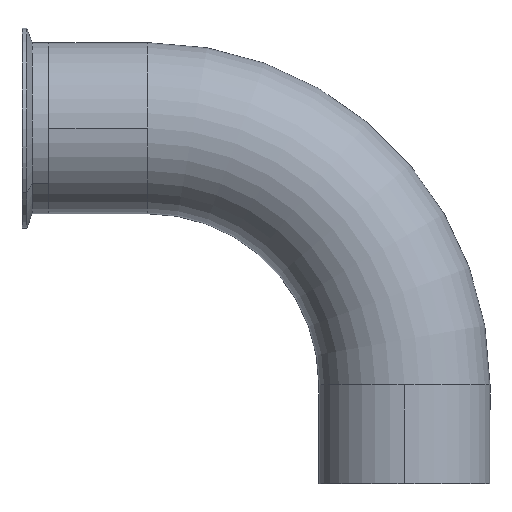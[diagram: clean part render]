
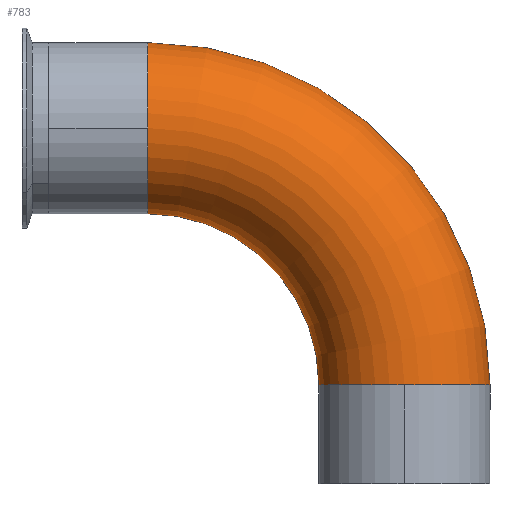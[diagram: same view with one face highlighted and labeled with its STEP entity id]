
A CAD part, top view. The second image highlights one B-rep face of the part: STEP entity #783.
In plain terms, the highlighted toroidal (fillet/blend) face has major radius 152.4 mm and minor radius 50.8 mm.
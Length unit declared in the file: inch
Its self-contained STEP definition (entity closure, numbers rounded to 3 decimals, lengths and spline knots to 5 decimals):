
#13 = ORIENTED_EDGE ( 'NONE', *, *, #843, .F. ) ;
#26 = AXIS2_PLACEMENT_3D ( 'NONE', #825, #395, #893 ) ;
#40 = EDGE_CURVE ( 'NONE', #122, #940, #146, .T. ) ;
#42 = DIRECTION ( 'NONE',  ( -1., 0., 0. ) ) ;
#44 = EDGE_CURVE ( 'NONE', #855, #940, #915, .T. ) ;
#55 = EDGE_CURVE ( 'NONE', #792, #855, #113, .T. ) ;
#71 = AXIS2_PLACEMENT_3D ( 'NONE', #451, #942, #127 ) ;
#79 = ORIENTED_EDGE ( 'NONE', *, *, #430, .F. ) ;
#83 = DIRECTION ( 'NONE',  ( 0., 0., 1. ) ) ;
#113 = CIRCLE ( 'NONE', #627, 2. ) ;
#122 = VERTEX_POINT ( 'NONE', #324 ) ;
#127 = DIRECTION ( 'NONE',  ( 1., 0., 0. ) ) ;
#130 = CARTESIAN_POINT ( 'NONE',  ( 6.11125, 4.05368, 8.13906 ) ) ;
#146 = CIRCLE ( 'NONE', #656, 2. ) ;
#152 = VERTEX_POINT ( 'NONE', #130 ) ;
#261 = DIRECTION ( 'NONE',  ( 0., 0., 1. ) ) ;
#318 = AXIS2_PLACEMENT_3D ( 'NONE', #538, #42, #610 ) ;
#324 = CARTESIAN_POINT ( 'NONE',  ( 2.11125, 10.05368, 10.13906 ) ) ;
#392 = FACE_OUTER_BOUND ( 'NONE', #925, .T. ) ;
#395 = DIRECTION ( 'NONE',  ( 0., 0., 1. ) ) ;
#397 = AXIS2_PLACEMENT_3D ( 'NONE', #899, #478, #966 ) ;
#430 = EDGE_CURVE ( 'NONE', #603, #122, #784, .T. ) ;
#437 = CARTESIAN_POINT ( 'NONE',  ( 2.11125, 8.05368, 8.13906 ) ) ;
#451 = CARTESIAN_POINT ( 'NONE',  ( 2.11125, 4.05368, 8.13906 ) ) ;
#462 = ORIENTED_EDGE ( 'NONE', *, *, #40, .F. ) ;
#478 = DIRECTION ( 'NONE',  ( 0., 1., 0. ) ) ;
#494 = DIRECTION ( 'NONE',  ( 0., 1., 0. ) ) ;
#538 = CARTESIAN_POINT ( 'NONE',  ( 2.11125, 10.05368, 8.13906 ) ) ;
#568 = DIRECTION ( 'NONE',  ( -1., 0., 0. ) ) ;
#584 = ORIENTED_EDGE ( 'NONE', *, *, #44, .T. ) ;
#594 = TOROIDAL_SURFACE ( 'NONE', #71, 6., 2. ) ;
#603 = VERTEX_POINT ( 'NONE', #437 ) ;
#610 = DIRECTION ( 'NONE',  ( 0., 0., 1. ) ) ;
#623 = CARTESIAN_POINT ( 'NONE',  ( 2.11125, 12.05368, 8.13906 ) ) ;
#627 = AXIS2_PLACEMENT_3D ( 'NONE', #913, #494, #978 ) ;
#650 = AXIS2_PLACEMENT_3D ( 'NONE', #712, #261, #777 ) ;
#656 = AXIS2_PLACEMENT_3D ( 'NONE', #979, #568, #83 ) ;
#691 = CARTESIAN_POINT ( 'NONE',  ( 10.11125, 4.05368, 8.13906 ) ) ;
#694 = CIRCLE ( 'NONE', #397, 2. ) ;
#712 = CARTESIAN_POINT ( 'NONE',  ( 2.11125, 4.05368, 8.13906 ) ) ;
#777 = DIRECTION ( 'NONE',  ( 1., 0., 0. ) ) ;
#783 = ADVANCED_FACE ( 'NONE', ( #392 ), #594, .T. ) ;
#784 = CIRCLE ( 'NONE', #318, 2. ) ;
#785 = ORIENTED_EDGE ( 'NONE', *, *, #945, .T. ) ;
#792 = VERTEX_POINT ( 'NONE', #876 ) ;
#825 = CARTESIAN_POINT ( 'NONE',  ( 2.11125, 4.05368, 8.13906 ) ) ;
#843 = EDGE_CURVE ( 'NONE', #152, #603, #894, .T. ) ;
#855 = VERTEX_POINT ( 'NONE', #691 ) ;
#872 = ORIENTED_EDGE ( 'NONE', *, *, #55, .T. ) ;
#876 = CARTESIAN_POINT ( 'NONE',  ( 8.11125, 4.05368, 10.13906 ) ) ;
#893 = DIRECTION ( 'NONE',  ( 1., 0., 0. ) ) ;
#894 = CIRCLE ( 'NONE', #26, 4. ) ;
#899 = CARTESIAN_POINT ( 'NONE',  ( 8.11125, 4.05368, 8.13906 ) ) ;
#913 = CARTESIAN_POINT ( 'NONE',  ( 8.11125, 4.05368, 8.13906 ) ) ;
#915 = CIRCLE ( 'NONE', #650, 8. ) ;
#925 = EDGE_LOOP ( 'NONE', ( #872, #584, #462, #79, #13, #785 ) ) ;
#940 = VERTEX_POINT ( 'NONE', #623 ) ;
#942 = DIRECTION ( 'NONE',  ( 0., 0., 1. ) ) ;
#945 = EDGE_CURVE ( 'NONE', #152, #792, #694, .T. ) ;
#966 = DIRECTION ( 'NONE',  ( 0., 0., 1. ) ) ;
#978 = DIRECTION ( 'NONE',  ( 0., 0., 1. ) ) ;
#979 = CARTESIAN_POINT ( 'NONE',  ( 2.11125, 10.05368, 8.13906 ) ) ;
